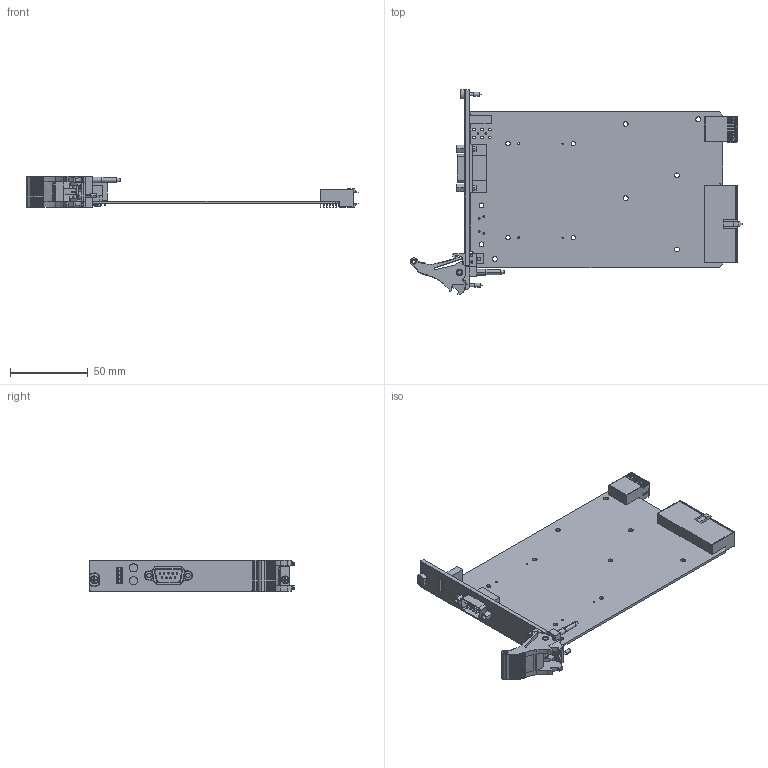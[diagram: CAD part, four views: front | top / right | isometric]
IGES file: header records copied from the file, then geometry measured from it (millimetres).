
Start section:  PTC IGES file: cu_pxi-8512_1.igs
Global section: file name: cu_pxi-8512_1.igs; native system: Pro/ENGINEER by Parametric Technology Corporation; preprocessor: 2006080; author: dcrowder; organization: Unknown; date: 090219.135847; units: inch
Bounding box: 213.24 x 131.56 x 20.19 mm (x, y, z)
Surface area: 53718.6 mm2 (no closed solid volume)
Topology: 0 solids, 0 shells, 2313 faces, 12066 edges, 12058 vertices
Faces by surface type: bspline 1553, revolution 756, extrusion 4
